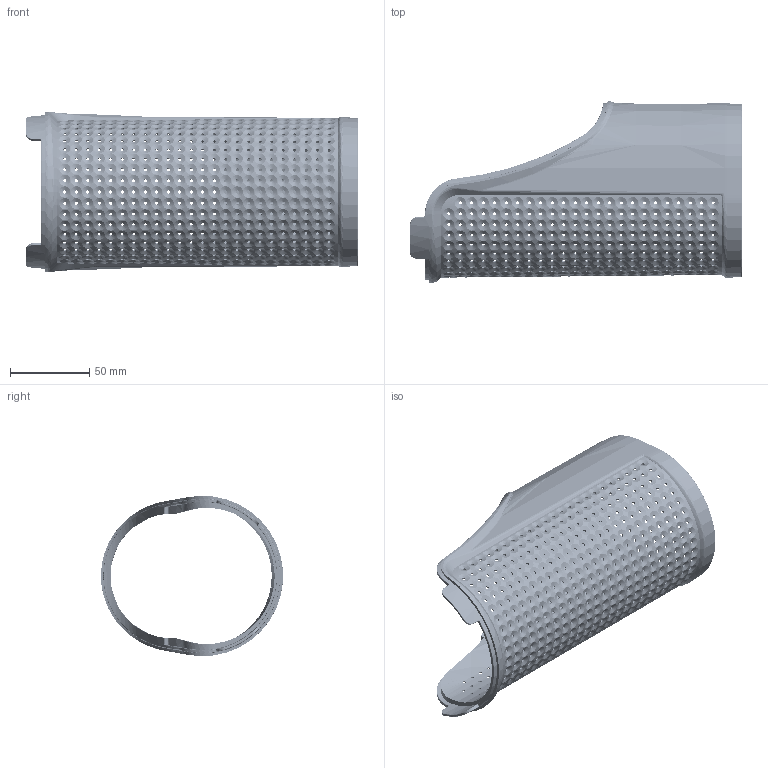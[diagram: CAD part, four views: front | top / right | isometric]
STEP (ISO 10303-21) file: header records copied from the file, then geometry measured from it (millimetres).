
FILE_DESCRIPTION (( 'STEP AP214' ), '1' );
FILE_NAME ('P-00104 - Filter - v2.2.7_2.2.4 - Constant Chamfer Depth.STEP', '2026-06-12T21:48:15', ( '' ), ( '' ), 'SwSTEP 2.0', 'SolidWorks 2023', '' );
FILE_SCHEMA (( 'AUTOMOTIVE_DESIGN' ));
Products named in the file (1): P-00104 - Filter - v2.2.7_2.2.4 - Constant Chamfer Depth
Bounding box: 209.5 x 114.88 x 101.1 mm (x, y, z)
Volume: 134834.2 mm3; surface area: 105853.7 mm2
Topology: 1 solids, 1 shells, 2299 faces, 7115 edges, 4717 vertices
Faces by surface type: bspline 1198, cylinder 1032, cone 34, plane 24, torus 11
Entity records: 598682 total; most frequent: CARTESIAN_POINT 548540, ORIENTED_EDGE 14222, EDGE_CURVE 7111, B_SPLINE_CURVE_WITH_KNOTS 5787, VERTEX_POINT 4717, DIRECTION 3640, EDGE_LOOP 3208, ADVANCED_FACE 2299
